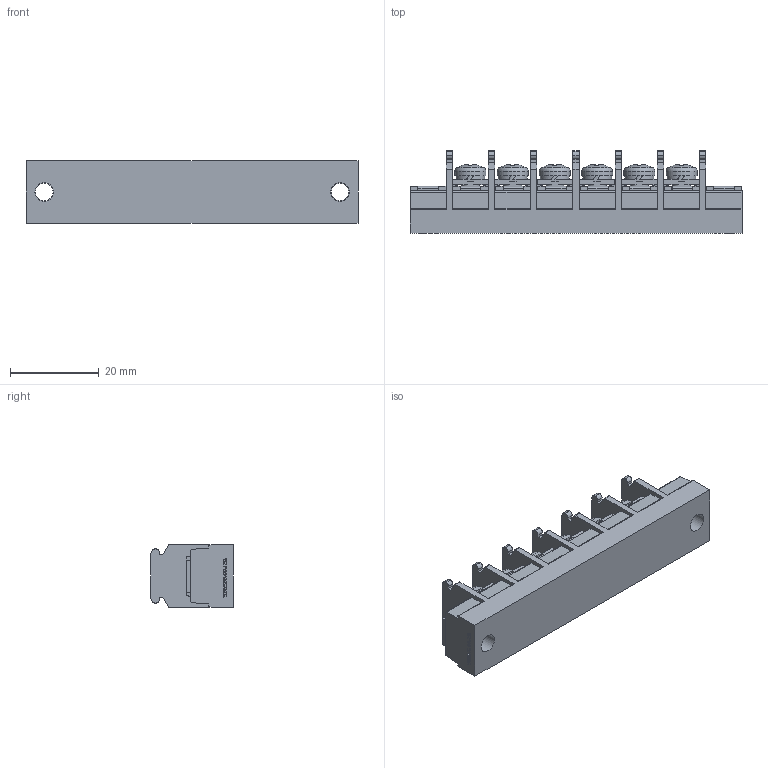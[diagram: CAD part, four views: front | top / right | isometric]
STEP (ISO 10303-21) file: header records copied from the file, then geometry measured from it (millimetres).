
FILE_DESCRIPTION(/* description */ ('Alibre Inc.'),/* implementation_level */ '2;1');
FILE_NAME(/* name */ 'export-9A9E3356-EBA6-4B26-9C57-AE892F8DF6A8',/* time_stamp */ '2021-02-13T15:49:59+09:00',/* author */ (''),/* organization */ (''),/* preprocessor_version */ 'ST-DEVELOPER v17',/* originating_system */ 'Alibre',/* authorisation */ '');
FILE_SCHEMA (('CONFIG_CONTROL_DESIGN'));
Length unit declared in the file: millimetre
Bounding box: 74.7 x 18.5 x 14 mm (x, y, z)
Volume: 11844.8 mm3; surface area: 7816.2 mm2
Topology: 1 solids, 23 shells, 1135 faces, 3208 edges, 2120 vertices
Faces by surface type: plane 845, cylinder 138, bspline 104, cone 30, torus 12, sphere 6
Full cylindrical faces by diameter (mm): 4 x14, 4.2 x2, 7 x6
Entity records: 34980 total; most frequent: CARTESIAN_POINT 7360, ORIENTED_EDGE 6308, DIRECTION 4440, EDGE_CURVE 3154, VECTOR 2306, LINE 2306, VERTEX_POINT 2106, AXIS2_PLACEMENT_3D 1460
